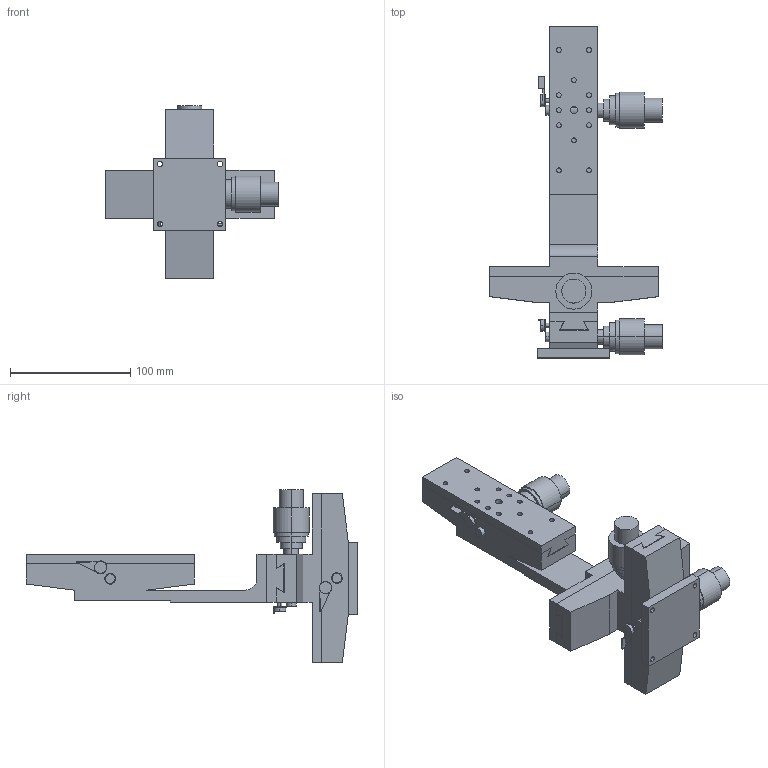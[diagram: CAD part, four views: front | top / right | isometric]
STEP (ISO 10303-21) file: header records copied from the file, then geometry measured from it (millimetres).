
FILE_DESCRIPTION (( 'STEP AP203' ), '1' );
FILE_NAME ('LT-112S.STEP', '2008-03-04T00:27:20', ( '' ), ( '' ), 'SwSTEP 2.0', 'SolidWorks 2007', '' );
FILE_SCHEMA (( 'CONFIG_CONTROL_DESIGN' ));
Length unit declared in the file: millimetre
Products named in the file (5): LT-112S; LT-112S-1; LT-112S-2; LT-112S-3; LT-112S-4
Assembly tree (4 placements, depth 2):
  LT-112S
    LT-112S-1
    LT-112S-4
    LT-112S-3
    LT-112S-2
Bounding box: 143.5 x 276 x 143.5 mm (x, y, z)
Volume: 659020 mm3; surface area: 153615.7 mm2
Topology: 4 solids, 6 shells, 375 faces, 906 edges, 599 vertices
Faces by surface type: plane 195, cylinder 180
Entity records: 11692 total; most frequent: DIRECTION 2029, CARTESIAN_POINT 1905, ORIENTED_EDGE 1812, EDGE_CURVE 906, AXIS2_PLACEMENT_3D 747, VERTEX_POINT 599, VECTOR 535, LINE 535
